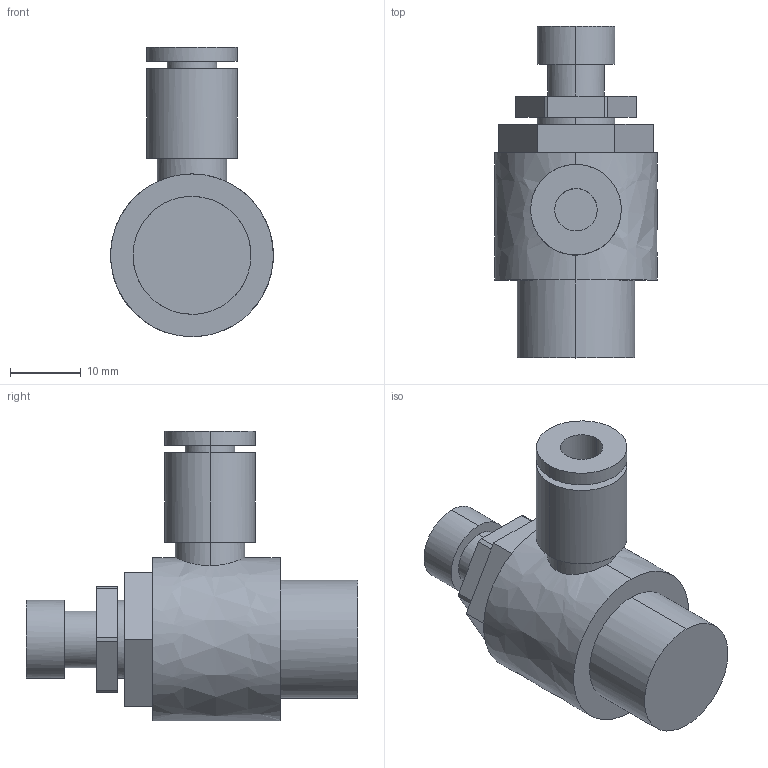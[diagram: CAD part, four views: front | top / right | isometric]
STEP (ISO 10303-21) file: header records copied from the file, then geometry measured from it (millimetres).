
FILE_DESCRIPTION (( 'STEP AP214' ), '1' );
FILE_NAME ('AS3201FPG-03-06.STEP', '2023-03-08T10:29:54', ( 'Windows User' ), ( 'P R C' ), 'SwSTEP 2.0', 'SolidWorks 2019', '' );
FILE_SCHEMA (( 'AUTOMOTIVE_DESIGN' ));
Length unit declared in the file: millimetre
Products named in the file (1): AS3201FPG-03-06
Bounding box: 22.99 x 46.9 x 40.9 mm (x, y, z)
Volume: 14140.1 mm3; surface area: 5079.2 mm2
Topology: 1 solids, 1 shells, 51 faces, 117 edges, 78 vertices
Faces by surface type: bspline 26, plane 25
Entity records: 2011 total; most frequent: CARTESIAN_POINT 1178, ORIENTED_EDGE 234, EDGE_CURVE 117, B_SPLINE_CURVE_WITH_KNOTS 90, VERTEX_POINT 78, EDGE_LOOP 61, DIRECTION 52, ADVANCED_FACE 51
